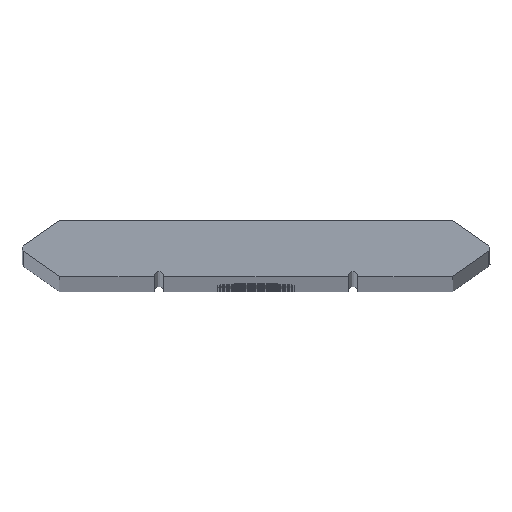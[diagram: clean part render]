
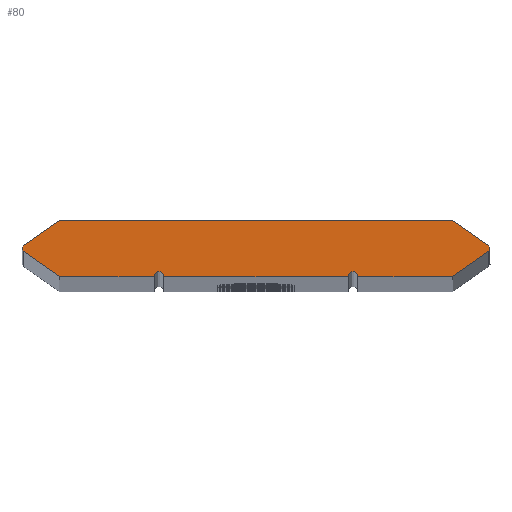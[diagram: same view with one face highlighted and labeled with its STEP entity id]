
A CAD part, top view. The second image highlights one B-rep face of the part: STEP entity #80.
In plain terms, the highlighted planar face has unit normal (0, 0, 1).
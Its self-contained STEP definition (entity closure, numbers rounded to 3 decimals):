
#80=ADVANCED_FACE('',(#186),#187,.F.);
#186=FACE_OUTER_BOUND('',#398,.T.);
#187=PLANE('',#399);
#398=EDGE_LOOP('',(#641,#642,#643,#644,#645,#646,#647,#648,#649,#650,#651,#652,#653,#654,#655,#656));
#399=AXIS2_PLACEMENT_3D('',#657,#658,#659);
#641=ORIENTED_EDGE('',*,*,#1044,.F.);
#642=ORIENTED_EDGE('',*,*,#1045,.F.);
#643=ORIENTED_EDGE('',*,*,#1046,.F.);
#644=ORIENTED_EDGE('',*,*,#1047,.F.);
#645=ORIENTED_EDGE('',*,*,#1005,.F.);
#646=ORIENTED_EDGE('',*,*,#1048,.F.);
#647=ORIENTED_EDGE('',*,*,#1049,.F.);
#648=ORIENTED_EDGE('',*,*,#1050,.F.);
#649=ORIENTED_EDGE('',*,*,#1051,.F.);
#650=ORIENTED_EDGE('',*,*,#1052,.F.);
#651=ORIENTED_EDGE('',*,*,#1053,.F.);
#652=ORIENTED_EDGE('',*,*,#1054,.F.);
#653=ORIENTED_EDGE('',*,*,#1027,.F.);
#654=ORIENTED_EDGE('',*,*,#1055,.F.);
#655=ORIENTED_EDGE('',*,*,#1056,.F.);
#656=ORIENTED_EDGE('',*,*,#1057,.F.);
#657=CARTESIAN_POINT('',(37.918,0.,0.));
#658=DIRECTION('',(0.,0.0,-1.0));
#659=DIRECTION('',(0.,1.0,0.));
#1005=EDGE_CURVE('',#1132,#1135,#1136,.T.);
#1027=EDGE_CURVE('',#1177,#1179,#1180,.T.);
#1044=EDGE_CURVE('',#1210,#1211,#1212,.T.);
#1045=EDGE_CURVE('',#1213,#1210,#1214,.T.);
#1046=EDGE_CURVE('',#1215,#1213,#1216,.T.);
#1047=EDGE_CURVE('',#1135,#1215,#1217,.T.);
#1048=EDGE_CURVE('',#1218,#1132,#1219,.T.);
#1049=EDGE_CURVE('',#1220,#1218,#1221,.T.);
#1050=EDGE_CURVE('',#1222,#1220,#1223,.T.);
#1051=EDGE_CURVE('',#1224,#1222,#1225,.T.);
#1052=EDGE_CURVE('',#1226,#1224,#1227,.T.);
#1053=EDGE_CURVE('',#1228,#1226,#1229,.T.);
#1054=EDGE_CURVE('',#1179,#1228,#1230,.T.);
#1055=EDGE_CURVE('',#1231,#1177,#1232,.T.);
#1056=EDGE_CURVE('',#1233,#1231,#1234,.T.);
#1057=EDGE_CURVE('',#1211,#1233,#1235,.T.);
#1132=VERTEX_POINT('',#1340);
#1135=VERTEX_POINT('',#1344);
#1136=LINE('',#1345,#1346);
#1177=VERTEX_POINT('',#1390);
#1179=VERTEX_POINT('',#1393);
#1180=LINE('',#1394,#1395);
#1210=VERTEX_POINT('',#1436);
#1211=VERTEX_POINT('',#1437);
#1212=LINE('',#1438,#1439);
#1213=VERTEX_POINT('',#1440);
#1214=LINE('',#1441,#1442);
#1215=VERTEX_POINT('',#1443);
#1216=CIRCLE('',#1444,0.545);
#1217=LINE('',#1445,#1446);
#1218=VERTEX_POINT('',#1447);
#1219=LINE('',#1448,#1449);
#1220=VERTEX_POINT('',#1450);
#1221=CIRCLE('',#1451,0.545);
#1222=VERTEX_POINT('',#1452);
#1223=LINE('',#1453,#1454);
#1224=VERTEX_POINT('',#1455);
#1225=LINE('',#1456,#1457);
#1226=VERTEX_POINT('',#1458);
#1227=LINE('',#1459,#1460);
#1228=VERTEX_POINT('',#1461);
#1229=CIRCLE('',#1462,0.75);
#1230=LINE('',#1463,#1464);
#1231=VERTEX_POINT('',#1465);
#1232=LINE('',#1466,#1467);
#1233=VERTEX_POINT('',#1468);
#1234=CIRCLE('',#1469,0.75);
#1235=LINE('',#1470,#1471);
#1340=CARTESIAN_POINT('',(-31.893,4.56,0.));
#1344=CARTESIAN_POINT('',(31.893,4.56,0.));
#1345=CARTESIAN_POINT('',(37.918,4.56,0.));
#1346=VECTOR('',#1605,1.0);
#1390=CARTESIAN_POINT('',(15.0,-4.56,0.));
#1393=CARTESIAN_POINT('',(-15.0,-4.56,0.));
#1394=CARTESIAN_POINT('',(37.918,-4.56,0.));
#1395=VECTOR('',#1661,1.0);
#1436=CARTESIAN_POINT('',(31.893,-4.56,0.));
#1437=CARTESIAN_POINT('',(16.5,-4.56,0.));
#1438=CARTESIAN_POINT('',(37.918,-4.56,0.));
#1439=VECTOR('',#1688,1.0);
#1440=CARTESIAN_POINT('',(37.768,-0.446,0.));
#1441=CARTESIAN_POINT('',(38.078,-0.229,0.));
#1442=VECTOR('',#1689,1.0);
#1443=CARTESIAN_POINT('',(37.768,0.446,0.));
#1444=AXIS2_PLACEMENT_3D('',#1690,#1691,#1692);
#1445=CARTESIAN_POINT('',(38.078,0.229,0.));
#1446=VECTOR('',#1693,1.0);
#1447=CARTESIAN_POINT('',(-37.768,0.446,0.));
#1448=CARTESIAN_POINT('',(12.809,35.86,0.));
#1449=VECTOR('',#1694,1.0);
#1450=CARTESIAN_POINT('',(-37.768,-0.446,0.));
#1451=AXIS2_PLACEMENT_3D('',#1695,#1696,#1697);
#1452=CARTESIAN_POINT('',(-31.893,-4.56,0.));
#1453=CARTESIAN_POINT('',(12.809,-35.86,0.));
#1454=VECTOR('',#1698,1.0);
#1455=CARTESIAN_POINT('',(-16.5,-4.56,0.));
#1456=CARTESIAN_POINT('',(37.918,-4.56,0.));
#1457=VECTOR('',#1699,1.0);
#1458=CARTESIAN_POINT('',(-16.5,-4.465,0.));
#1459=CARTESIAN_POINT('',(-16.5,-4.465,0.));
#1460=VECTOR('',#1700,1.0);
#1461=CARTESIAN_POINT('',(-15.0,-4.465,0.));
#1462=AXIS2_PLACEMENT_3D('',#1701,#1702,#1703);
#1463=CARTESIAN_POINT('',(-15.0,-4.715,0.));
#1464=VECTOR('',#1704,1.0);
#1465=CARTESIAN_POINT('',(15.0,-4.465,0.));
#1466=CARTESIAN_POINT('',(15.0,-4.465,0.));
#1467=VECTOR('',#1705,1.0);
#1468=CARTESIAN_POINT('',(16.5,-4.465,0.));
#1469=AXIS2_PLACEMENT_3D('',#1706,#1707,#1708);
#1470=CARTESIAN_POINT('',(16.5,-4.715,0.));
#1471=VECTOR('',#1709,1.0);
#1605=DIRECTION('',(1.0,0.,0.));
#1661=DIRECTION('',(-1.0,0.,0.));
#1688=DIRECTION('',(-1.0,0.,0.));
#1689=DIRECTION('',(-0.819,-0.574,0.));
#1690=CARTESIAN_POINT('',(37.455,0.,0.));
#1691=DIRECTION('',(0.,0.,-1.0));
#1692=DIRECTION('',(0.,-1.0,0.));
#1693=DIRECTION('',(0.819,-0.574,0.));
#1694=DIRECTION('',(0.819,0.574,0.));
#1695=CARTESIAN_POINT('',(-37.455,0.,0.));
#1696=DIRECTION('',(0.,0.,-1.0));
#1697=DIRECTION('',(0.,-1.0,0.));
#1698=DIRECTION('',(-0.819,0.574,0.));
#1699=DIRECTION('',(-1.0,0.,0.));
#1700=DIRECTION('',(0.,-1.0,0.));
#1701=CARTESIAN_POINT('',(-15.75,-4.465,0.));
#1702=DIRECTION('',(0.,0.,1.0));
#1703=DIRECTION('',(0.,1.0,0.));
#1704=DIRECTION('',(0.,1.0,0.));
#1705=DIRECTION('',(0.,-1.0,0.));
#1706=CARTESIAN_POINT('',(15.75,-4.465,0.));
#1707=DIRECTION('',(0.,0.,1.0));
#1708=DIRECTION('',(0.,1.0,0.));
#1709=DIRECTION('',(0.,1.0,0.));
